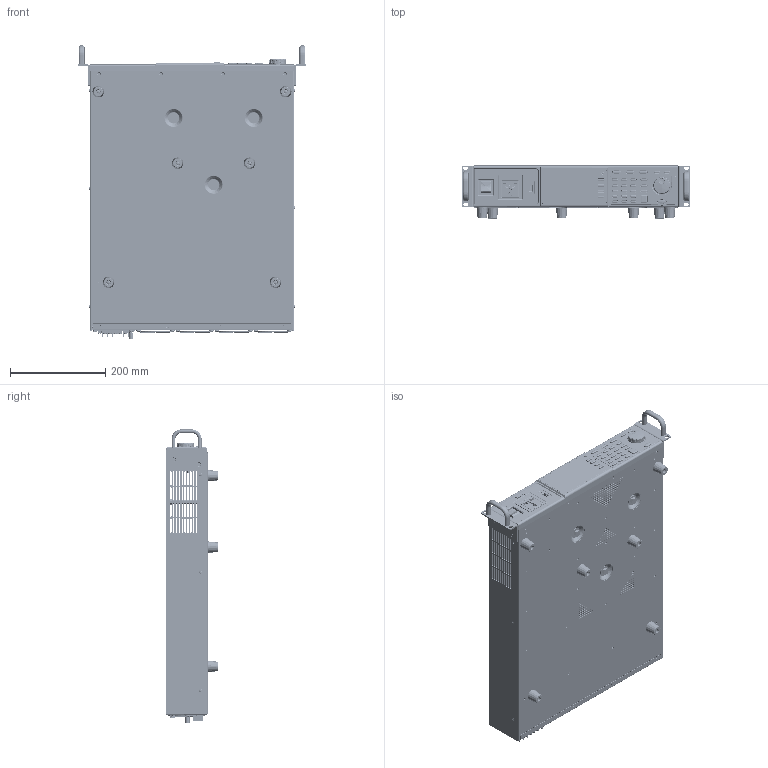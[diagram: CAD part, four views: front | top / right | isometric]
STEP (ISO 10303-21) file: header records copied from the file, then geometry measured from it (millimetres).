
FILE_DESCRIPTION((''),'2;1');
FILE_NAME('APS-1000W_ASM','2019-03-26T17:19:29',('benny_chen'),(''),'CREO PARAMETRIC BY PTC INC, 2018100','CREO PARAMETRIC BY PTC INC, 2018100','');
FILE_SCHEMA(('CONFIG_CONTROL_DESIGN'));
Products named in the file (95): ACSP_SKEL0001; ACSP_LO_SKEL0001; ACSP-LO-HP; S-M4-1_NUT; FH-M4-12; SO-M3-9; SO-M3-7; SO-M3-11; 62PS-710LO101-2_ASM; 62PS-710LO101-3; 62PS-710LO101-3_ASM; 62PS-710LO101-4; APS-FFT-4; PMS-W-4X16; 62PS-710LO101-1_ASM; APS-DT-66-C11W-XX; APS-DT-66-C11W-XX_3PIN; APS7000-EMI_OUT_ASM; RJ-45; BNC-PCBTYPE-M; CONNECTOR_A-DIO-FS03; ECH350RM-04P; APS-PCB-ANALOG_ASM; 61PF-084220N1; APS-SCREW-M8XP1D25X80L; APS-NUT-M8XP1D25; ACSP-LO-ASM_ASM; APS-1000W_FRONT_ASM_SKEL; ACSP-F-HP; SO-M3-3L; SO-M3-4; SO-M3-S5; 62PS-7K0FP1B1-4_ASM; APS-HP-SOCKET_RG-02; 62PS-7K0FP2B1-2_ASM; 62PS-7K0FP1B1-3; APS-HP-SOCKET-BSF-R4_T1; 62PS-7K0FP1B1-2_ASM; 62PS-7K0FP1B1-1_ASM; LCD-PH-07008-002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
Assembly tree (225 placements, depth 6):
  APS-1000W_ASM
    ACSP_SKEL0001
    ACSP-LO-ASM_ASM
      ACSP_LO_SKEL0001
      62PS-710LO101-1_ASM
        62PS-710LO101-2_ASM
          ACSP-LO-HP
          S-M4-1_NUT  x6
          FH-M4-12
          SO-M3-9  x12
          SO-M3-7  x8
          SO-M3-11  x8
        62PS-710LO101-3_ASM
          62PS-710LO101-3
        62PS-710LO101-4
        APS-FFT-4  x6
        PMS-W-4X16  x6
      APS7000-EMI_OUT_ASM
        APS-DT-66-C11W-XX
        APS-DT-66-C11W-XX_3PIN
      APS-PCB-ANALOG_ASM
        RJ-45
        BNC-PCBTYPE-M
        CONNECTOR_A-DIO-FS03
        ECH350RM-04P
      61PF-084220N1  x3
      APS-SCREW-M8XP1D25X80L  x3
      APS-NUT-M8XP1D25
    APS-1000W_FRONT_ASM_ASM
      APS-1000W_FRONT_ASM_SKEL
      APS-F_ASM
        62PS-7K0FP1B1-1_ASM
          62PS-7K0FP1B1-4_ASM
            ACSP-F-HP
            S-M4-1_NUT  x4
            SO-M3-3L  x2
            SO-M3-4  x10
            SO-M3-S5  x2
          62PS-7K0FP2B1-2_ASM
            APS-HP-SOCKET_RG-02
          62PS-7K0FP1B1-3
          62PS-7K0FP1B1-2_ASM
            APS-HP-SOCKET-BSF-R4_T1
        APS-1000W_LCD_ASM_ASM
          LCD-PH-07008-002
          62PS-7K0HP301_ASM
            APS-LCD-HOLD-3
          57RG-20B04001  x2
          57RG-20B03901  x2
        APS-PCB-KEYBOARD_ASM
          ENCODE_SW-NOBLE
        3610-02000101-GWT_ASM
          3610-02000101-BSF-R4S-FRAME
          3610-02000101-BSF-R4S
        APS-USB-GND-HP_ASM
          62PS-7K0HP101_ASM
            APS-HP-A116-1229-USB01
          FRP10  x2
          A116-1229-USB01
          SCREW-4-40-8D3L  x2
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Bounding box: 479.4 x 110.44 x 614.7 mm (x, y, z)
Volume: 1618241.7 mm3; surface area: 2205968.3 mm2
Topology: 220 solids, 245 shells, 16728 faces, 42627 edges, 26849 vertices
Faces by surface type: plane 7893, cylinder 5193, bspline 1422, cone 1227, torus 741, extrusion 141, sphere 110, revolution 1
Entity records: 365253 total; most frequent: CARTESIAN_POINT 101153, DIRECTION 54731, ORIENTED_EDGE 54120, EDGE_CURVE 27135, AXIS2_PLACEMENT_3D 19412, VERTEX_POINT 17259, VECTOR 15906, LINE 15765
